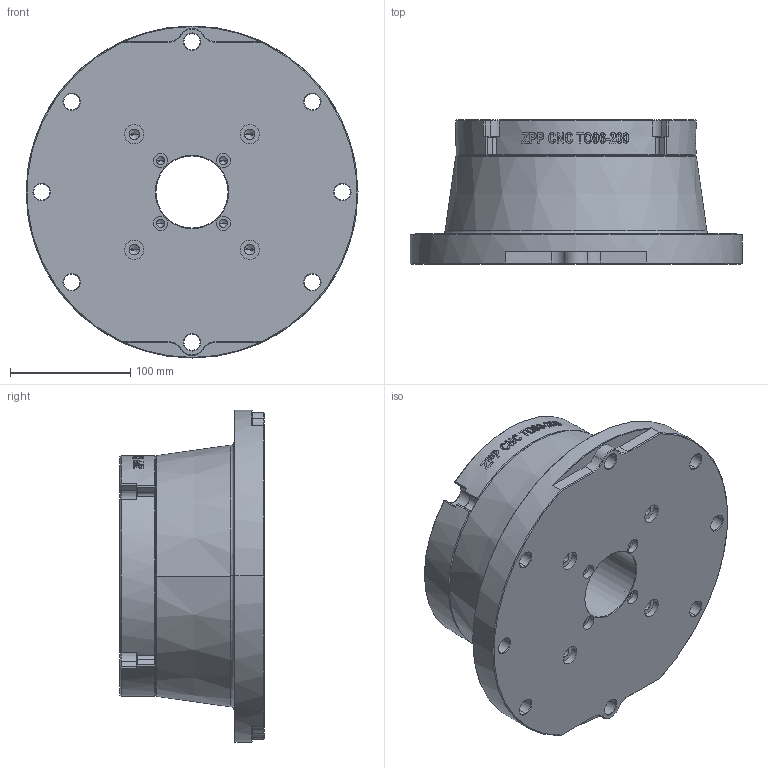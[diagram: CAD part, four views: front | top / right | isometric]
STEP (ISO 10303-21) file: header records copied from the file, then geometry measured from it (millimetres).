
FILE_DESCRIPTION((''),'2;1');
FILE_NAME('TO96-200_120_ASM','2024-11-09T20:14:28',('XF'),(''),'CREO PARAMETRIC BY PTC INC, 2023073','CREO PARAMETRIC BY PTC INC, 2023073','');
FILE_SCHEMA(('CONFIG_CONTROL_DESIGN'));
Length unit declared in the file: millimetre
Products named in the file (3): TO96-120_200; TO96-200; TO96-200_120_ASM
Assembly tree (2 placements, depth 2):
  TO96-200_120_ASM
    TO96-120_200
    TO96-200
Bounding box: 276 x 120 x 276 mm (x, y, z)
Volume: 4180779.7 mm3; surface area: 300912 mm2
Topology: 2 solids, 8 shells, 682 faces, 1886 edges, 1247 vertices
Faces by surface type: cylinder 187, plane 168, extrusion 167, cone 148, torus 10, bspline 2
Entity records: 24683 total; most frequent: CARTESIAN_POINT 7388, ORIENTED_EDGE 3676, DIRECTION 3347, EDGE_CURVE 1850, VERTEX_POINT 1247, AXIS2_PLACEMENT_3D 1222, VECTOR 903, EDGE_LOOP 789
